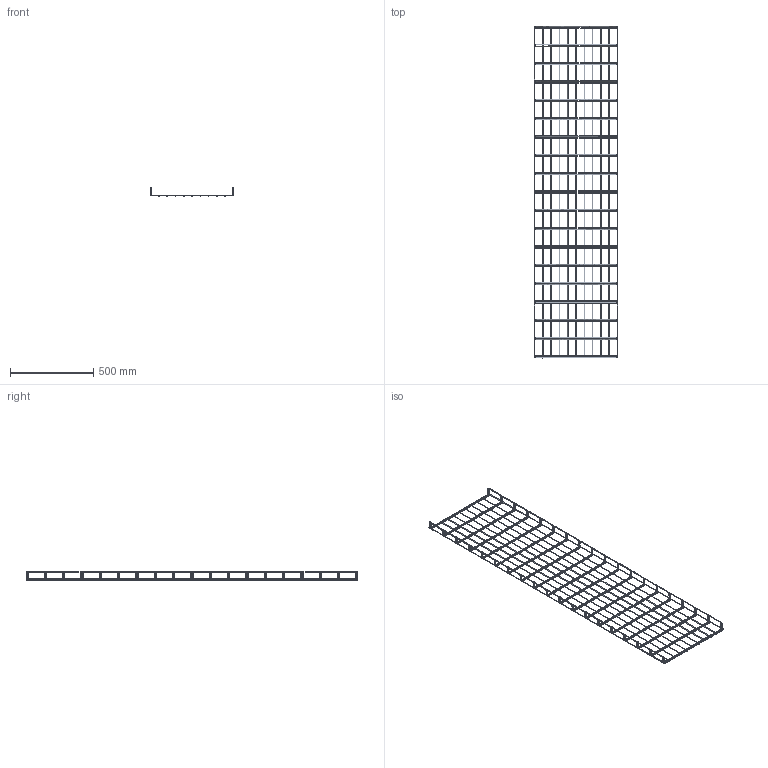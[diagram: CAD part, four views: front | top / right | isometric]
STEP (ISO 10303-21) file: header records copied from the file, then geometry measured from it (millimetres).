
FILE_DESCRIPTION(/* description */ (''),/* implementation_level */ '2;1');
FILE_NAME(/* name */ 'M2_500×050',/* time_stamp */ '2012-11-29T22:13:33+01:00',/* author */ (''),/* organization */ (''),/* preprocessor_version */ 'ST-DEVELOPER v10',/* originating_system */ '',/* authorisation */ '');
FILE_SCHEMA (('AUTOMOTIVE_DESIGN_CC2'));
Length unit declared in the file: millimetre
Products named in the file (1): 1
Bounding box: 504.19 x 1993.53 x 53.94 mm (x, y, z)
Surface area: 573805.1 mm2 (no closed solid volume)
Topology: 0 solids, 339 shells, 652 faces, 1904 edges, 1278 vertices
Faces by surface type: bspline 626, plane 26
Entity records: 53588 total; most frequent: CARTESIAN_POINT 41354, ORIENTED_EDGE 2530, EDGE_CURVE 1904, VERTEX_POINT 1278, B_SPLINE_CURVE_WITH_KNOTS 698, ADVANCED_FACE 652, FACE_OUTER_BOUND 652, EDGE_LOOP 652
